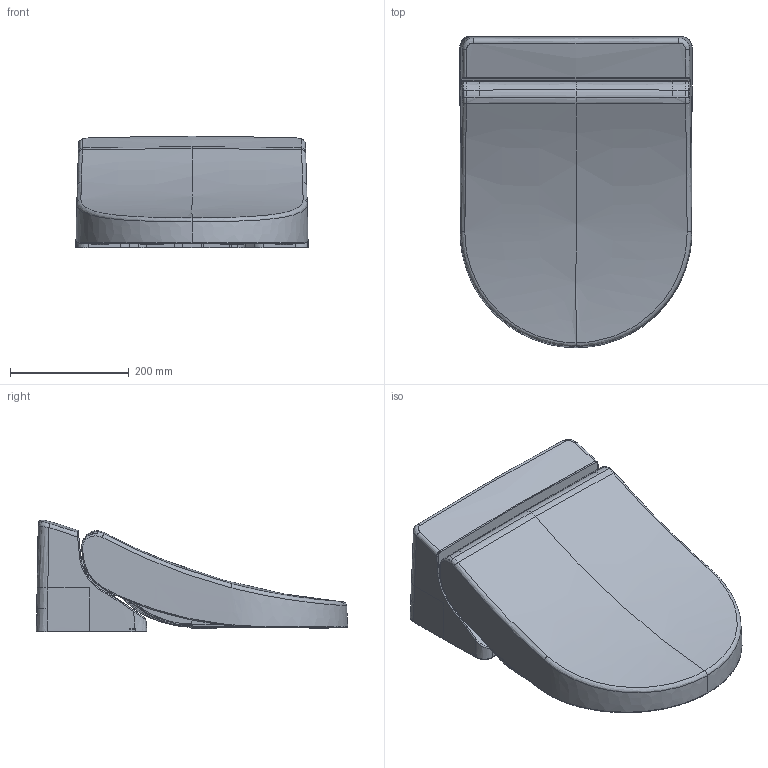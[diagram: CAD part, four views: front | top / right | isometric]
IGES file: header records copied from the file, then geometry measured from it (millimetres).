
Start section:  PTC IGES file: tcf6532.igs
Global section: file name: tcf6532.igs; native system: Creo Parametric by Parametric Technology Corporation; preprocessor: 2013050; author: Uporabnik; organization: Unknown; date: 20150409.081456; units: millimetre
Bounding box: 390.74 x 523.42 x 187.97 mm (x, y, z)
Volume: 19760249.3 mm3; surface area: 827343.9 mm2
Topology: 1 solids, 2 shells, 406 faces, 1100 edges, 741 vertices
Faces by surface type: bspline 322, revolution 73, extrusion 11
